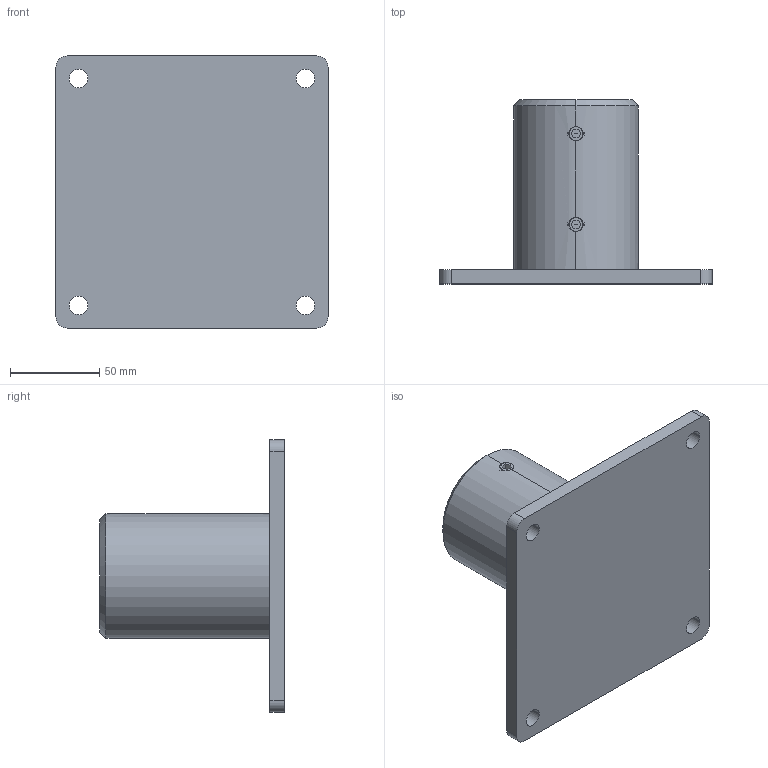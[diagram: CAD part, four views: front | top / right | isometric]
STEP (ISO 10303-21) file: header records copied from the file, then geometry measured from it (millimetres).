
FILE_DESCRIPTION (( 'STEP AP203' ), '1' );
FILE_NAME ('10-0550-00 REV 2, HD BASE BRACKET, 2in POLE, BLACK.STEP', '2018-10-01T19:06:23', ( '' ), ( '' ), 'SwSTEP 2.0', 'SolidWorks 2012', '' );
FILE_SCHEMA (( 'CONFIG_CONTROL_DESIGN' ));
Length unit declared in the file: inch
Products named in the file (5): 11-0552-00 REV 1, TUBE, POLE BASE; 11-0017-99 REV 2, PLATE, 6X6_Laser; 007-030-00_SSCUPSKT 0.375-16x0.25-HX-N; 10-0550-0X REV 2, HD BASE BRACKET, 2in POLE, WELDMENT; 10-0550-00 REV 2, HD BASE BRACKET, 2in POLE, BLACK
Assembly tree (7 placements, depth 3):
  10-0550-00 REV 2, HD BASE BRACKET, 2in POLE, BLACK
    10-0550-0X REV 2, HD BASE BRACKET, 2in POLE, WELDMENT
      11-0552-00 REV 1, TUBE, POLE BASE
      11-0017-99 REV 2, PLATE, 6X6_Laser
    007-030-00_SSCUPSKT 0.375-16x0.25-HX-N  x4
Bounding box: 152.4 x 103.19 x 152.4 mm (x, y, z)
Volume: 345119.6 mm3; surface area: 92768.1 mm2
Topology: 6 solids, 6 shells, 100 faces, 248 edges, 156 vertices
Faces by surface type: plane 40, cylinder 32, cone 28
Entity records: 2791 total; most frequent: CARTESIAN_POINT 829, DIRECTION 288, ORIENTED_EDGE 280, EDGE_CURVE 140, AXIS2_PLACEMENT_3D 109, VERTEX_POINT 90, LINE 70, VECTOR 70
